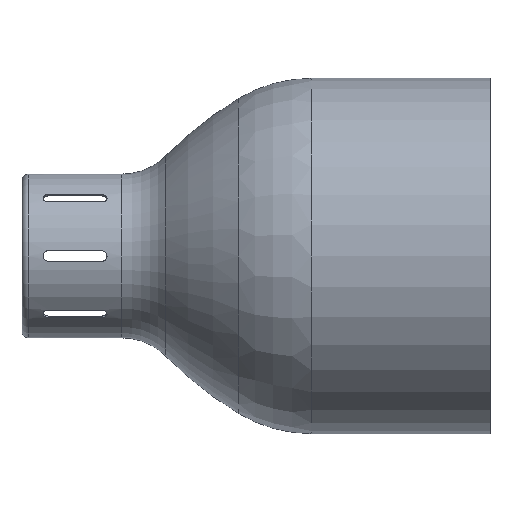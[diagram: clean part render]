
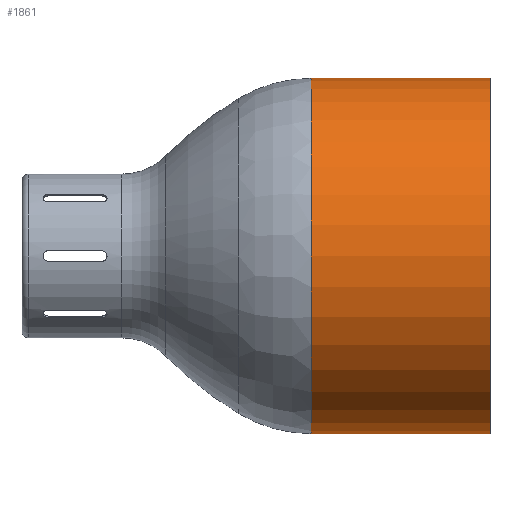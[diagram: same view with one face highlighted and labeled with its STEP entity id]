
A CAD part, left-side view. The second image highlights one B-rep face of the part: STEP entity #1861.
In plain terms, the highlighted cylindrical face has radius 83.5 mm (diameter 167 mm), a partial arc.
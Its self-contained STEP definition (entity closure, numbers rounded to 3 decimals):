
#65 = DIRECTION ( 'NONE',  ( 0., -1., 0. ) ) ;
#83 = CARTESIAN_POINT ( 'NONE',  ( 0., 0., 83.5 ) ) ;
#115 = AXIS2_PLACEMENT_3D ( 'NONE', #2136, #65, #2603 ) ;
#193 = ORIENTED_EDGE ( 'NONE', *, *, #1033, .T. ) ;
#316 = DIRECTION ( 'NONE',  ( 0., -1., 0. ) ) ;
#317 = VECTOR ( 'NONE', #2440, 1000. ) ;
#448 = EDGE_CURVE ( 'NONE', #1199, #2619, #803, .T. ) ;
#571 = DIRECTION ( 'NONE',  ( 0., -1., 0. ) ) ;
#709 = CIRCLE ( 'NONE', #1147, 83.5 ) ;
#738 = VECTOR ( 'NONE', #316, 1000. ) ;
#803 = CIRCLE ( 'NONE', #115, 83.5 ) ;
#822 = CARTESIAN_POINT ( 'NONE',  ( 0., 0., -83.5 ) ) ;
#890 = CARTESIAN_POINT ( 'NONE',  ( 0., 0., -83.5 ) ) ;
#951 = ORIENTED_EDGE ( 'NONE', *, *, #448, .T. ) ;
#1000 = ORIENTED_EDGE ( 'NONE', *, *, #1381, .F. ) ;
#1029 = LINE ( 'NONE', #822, #738 ) ;
#1033 = EDGE_CURVE ( 'NONE', #2619, #1516, #1029, .T. ) ;
#1147 = AXIS2_PLACEMENT_3D ( 'NONE', #2956, #1826, #2926 ) ;
#1179 = EDGE_LOOP ( 'NONE', ( #1000, #951, #193, #1455 ) ) ;
#1199 = VERTEX_POINT ( 'NONE', #2897 ) ;
#1342 = AXIS2_PLACEMENT_3D ( 'NONE', #2608, #571, #2428 ) ;
#1381 = EDGE_CURVE ( 'NONE', #1199, #1890, #2155, .T. ) ;
#1455 = ORIENTED_EDGE ( 'NONE', *, *, #2160, .F. ) ;
#1516 = VERTEX_POINT ( 'NONE', #890 ) ;
#1826 = DIRECTION ( 'NONE',  ( 0., -1., 0. ) ) ;
#1861 = ADVANCED_FACE ( 'NONE', ( #2205 ), #2635, .T. ) ;
#1890 = VERTEX_POINT ( 'NONE', #2850 ) ;
#2136 = CARTESIAN_POINT ( 'NONE',  ( 0., 84.096, 0. ) ) ;
#2155 = LINE ( 'NONE', #83, #317 ) ;
#2160 = EDGE_CURVE ( 'NONE', #1890, #1516, #709, .T. ) ;
#2205 = FACE_OUTER_BOUND ( 'NONE', #1179, .T. ) ;
#2311 = CARTESIAN_POINT ( 'NONE',  ( 0., 84.096, -83.5 ) ) ;
#2428 = DIRECTION ( 'NONE',  ( 0., 0., -1. ) ) ;
#2440 = DIRECTION ( 'NONE',  ( 0., -1., 0. ) ) ;
#2603 = DIRECTION ( 'NONE',  ( 0., 0., -1. ) ) ;
#2608 = CARTESIAN_POINT ( 'NONE',  ( 0., 0., 0. ) ) ;
#2619 = VERTEX_POINT ( 'NONE', #2311 ) ;
#2635 = CYLINDRICAL_SURFACE ( 'NONE', #1342, 83.5 ) ;
#2850 = CARTESIAN_POINT ( 'NONE',  ( 0., 0., 83.5 ) ) ;
#2897 = CARTESIAN_POINT ( 'NONE',  ( 0., 84.096, 83.5 ) ) ;
#2926 = DIRECTION ( 'NONE',  ( 0., 0., -1. ) ) ;
#2956 = CARTESIAN_POINT ( 'NONE',  ( 0., 0., 0. ) ) ;
